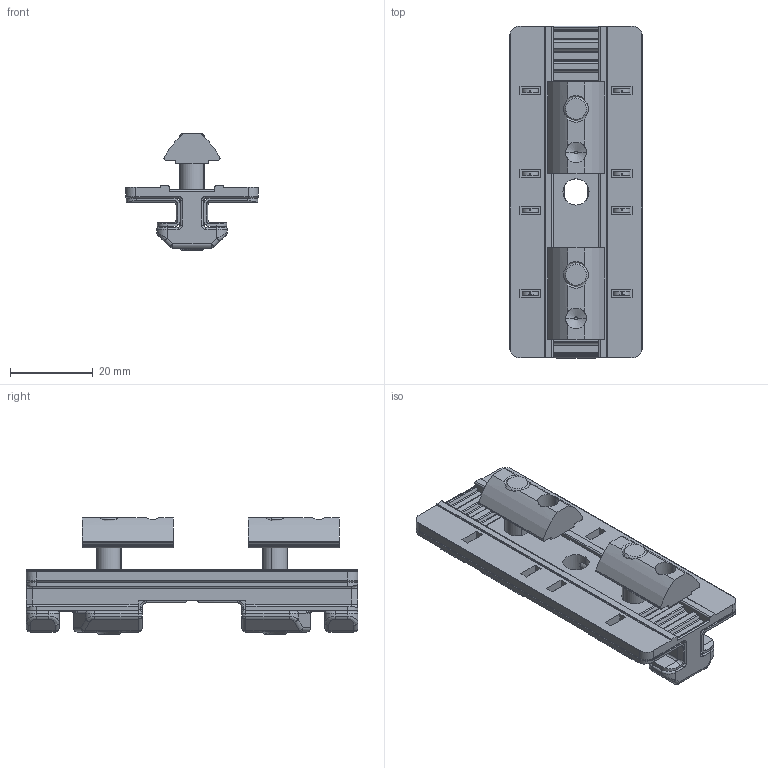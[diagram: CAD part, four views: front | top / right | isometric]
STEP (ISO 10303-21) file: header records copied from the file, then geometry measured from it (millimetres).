
FILE_DESCRIPTION(('STEP AP242'),'1');
FILE_NAME('fath_093ps0840f.stp','2021-04-01T08:38:13',('TraceParts'),('TraceParts S.A.'),'Spatial InterOp 3D',' ',' ');
FILE_SCHEMA(('AP242_MANAGED_MODEL_BASED_3D_ENGINEERING_MIM_LF {1 0 10303 442 1 1 4}'));
Length unit declared in the file: millimetre
Products named in the file (1): fath_093ps0840f_1
Bounding box: 32 x 80 x 28 mm (x, y, z)
Volume: 18262.1 mm3; surface area: 19921 mm2
Topology: 9 solids, 9 shells, 665 faces, 1718 edges, 1048 vertices
Faces by surface type: plane 259, cylinder 258, torus 72, bspline 28, cone 28, sphere 20
Entity records: 21405 total; most frequent: CARTESIAN_POINT 5212, ORIENTED_EDGE 3396, DIRECTION 3390, EDGE_CURVE 1698, AXIS2_PLACEMENT_3D 1222, VERTEX_POINT 1048, LINE 946, VECTOR 946
